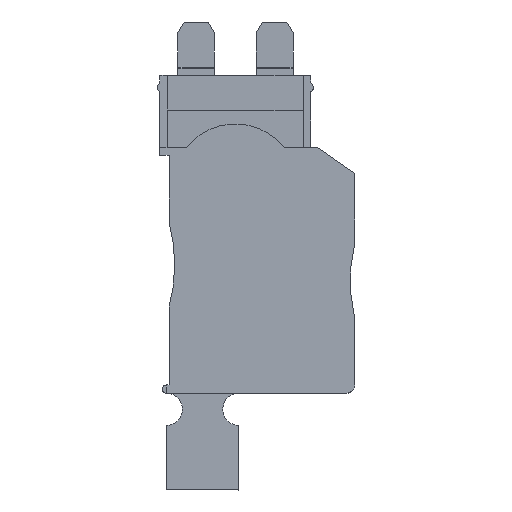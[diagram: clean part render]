
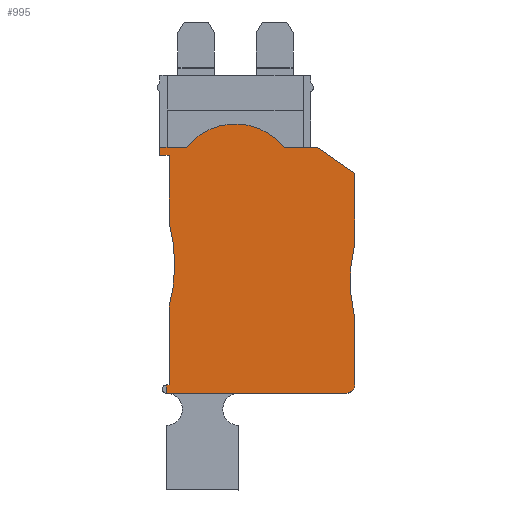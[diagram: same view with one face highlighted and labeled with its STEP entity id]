
A CAD part, top view. The second image highlights one B-rep face of the part: STEP entity #995.
In plain terms, the highlighted planar face has unit normal (0, 0, 1).
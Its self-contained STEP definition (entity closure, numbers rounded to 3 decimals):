
#633=CARTESIAN_POINT('',(5.252,15.213,3.2));
#634=VERTEX_POINT('',#633);
#641=CARTESIAN_POINT('',(7.197,15.213,3.2));
#642=VERTEX_POINT('',#641);
#643=CARTESIAN_POINT('',(7.197,15.213,3.2));
#644=DIRECTION('',(-1.,0.,0.));
#645=VECTOR('',#644,1.946);
#646=LINE('',#643,#645);
#647=EDGE_CURVE('',#642,#634,#646,.T.);
#856=CARTESIAN_POINT('',(3.486,7.74,3.2));
#857=DIRECTION('',(-0.985,0.174,0.));
#858=DIRECTION('',(0.,0.,1.));
#859=AXIS2_PLACEMENT_3D('',#856,#858,#857);
#860=PLANE('',#859);
#861=CARTESIAN_POINT('',(9.5,4.566,3.2));
#862=VERTEX_POINT('',#861);
#863=CARTESIAN_POINT('',(9.5,9.334,3.2));
#864=VERTEX_POINT('',#863);
#865=CARTESIAN_POINT('',(19.212,6.95,3.2));
#866=DIRECTION('',(-0.971,-0.238,0.));
#867=DIRECTION('',(0.,0.,-1.));
#868=AXIS2_PLACEMENT_3D('',#865,#867,#866);
#869=CIRCLE('',#868,10.);
#870=EDGE_CURVE('',#862,#864,#869,.T.);
#871=ORIENTED_EDGE('E41514',*,*,#870,.T.);
#872=CARTESIAN_POINT('',(9.5,13.6,3.2));
#873=VERTEX_POINT('',#872);
#874=CARTESIAN_POINT('',(9.5,9.334,3.2));
#875=DIRECTION('',(0.,1.,0.));
#876=VECTOR('',#875,4.266);
#877=LINE('',#874,#876);
#878=EDGE_CURVE('',#864,#873,#877,.T.);
#879=ORIENTED_EDGE('E41515',*,*,#878,.T.);
#880=CARTESIAN_POINT('',(9.5,13.6,3.2));
#881=DIRECTION('',(-0.819,0.574,0.));
#882=VECTOR('',#881,2.811);
#883=LINE('',#880,#882);
#884=EDGE_CURVE('',#873,#642,#883,.T.);
#885=ORIENTED_EDGE('E41516',*,*,#884,.T.);
#886=ORIENTED_EDGE('E41516',*,*,#647,.T.);
#887=CARTESIAN_POINT('',(5.024,15.317,3.2));
#888=VERTEX_POINT('',#887);
#889=CARTESIAN_POINT('',(5.252,15.513,3.2));
#890=DIRECTION('',(0.,-1.,0.));
#891=DIRECTION('',(0.,0.,-1.));
#892=AXIS2_PLACEMENT_3D('',#889,#891,#890);
#893=CIRCLE('',#892,0.3);
#894=EDGE_CURVE('',#634,#888,#893,.T.);
#895=ORIENTED_EDGE('E41517',*,*,#894,.T.);
#896=CARTESIAN_POINT('',(-0.91,15.213,3.2));
#897=VERTEX_POINT('',#896);
#898=CARTESIAN_POINT('',(2.1,12.813,3.2));
#899=DIRECTION('',(0.759,0.651,0.));
#900=DIRECTION('',(0.,0.,1.));
#901=AXIS2_PLACEMENT_3D('',#898,#900,#899);
#902=CIRCLE('',#901,3.85);
#903=EDGE_CURVE('',#888,#897,#902,.T.);
#904=ORIENTED_EDGE('E41518',*,*,#903,.T.);
#905=CARTESIAN_POINT('',(-2.575,15.213,3.2));
#906=VERTEX_POINT('',#905);
#907=CARTESIAN_POINT('',(-0.91,15.213,3.2));
#908=DIRECTION('',(-1.,0.,0.));
#909=VECTOR('',#908,1.665);
#910=LINE('',#907,#909);
#911=EDGE_CURVE('',#897,#906,#910,.T.);
#912=ORIENTED_EDGE('E41519',*,*,#911,.T.);
#913=CARTESIAN_POINT('',(-2.575,14.713,3.2));
#914=VERTEX_POINT('',#913);
#915=CARTESIAN_POINT('',(-2.575,15.213,3.2));
#916=DIRECTION('',(0.,-1.,0.));
#917=VECTOR('',#916,0.5);
#918=LINE('',#915,#917);
#919=EDGE_CURVE('',#906,#914,#918,.T.);
#920=ORIENTED_EDGE('E41520',*,*,#919,.T.);
#921=CARTESIAN_POINT('',(-2.,14.713,3.2));
#922=VERTEX_POINT('',#921);
#923=CARTESIAN_POINT('',(-2.575,14.713,3.2));
#924=DIRECTION('',(1.,0.,0.));
#925=VECTOR('',#924,0.575);
#926=LINE('',#923,#925);
#927=EDGE_CURVE('',#914,#922,#926,.T.);
#928=ORIENTED_EDGE('E41521',*,*,#927,.T.);
#929=CARTESIAN_POINT('',(-2.,10.571,3.2));
#930=VERTEX_POINT('',#929);
#931=CARTESIAN_POINT('',(-2.,10.571,3.2));
#932=DIRECTION('',(0.,1.,0.));
#933=VECTOR('',#932,4.141);
#934=LINE('',#931,#933);
#935=EDGE_CURVE('',#930,#922,#934,.T.);
#936=ORIENTED_EDGE('E41522',*,*,#935,.F.);
#937=CARTESIAN_POINT('',(-2.,5.326,3.2));
#938=VERTEX_POINT('',#937);
#939=CARTESIAN_POINT('',(-11.65,7.949,3.2));
#940=DIRECTION('',(0.965,-0.262,0.));
#941=DIRECTION('',(0.,0.,1.));
#942=AXIS2_PLACEMENT_3D('',#939,#941,#940);
#943=CIRCLE('',#942,10.);
#944=EDGE_CURVE('',#938,#930,#943,.T.);
#945=ORIENTED_EDGE('E41523',*,*,#944,.F.);
#946=CARTESIAN_POINT('',(-2.,0.5,3.2));
#947=VERTEX_POINT('',#946);
#948=CARTESIAN_POINT('',(-2.,5.326,3.2));
#949=DIRECTION('',(0.,-1.,0.));
#950=VECTOR('',#949,4.826);
#951=LINE('',#948,#950);
#952=EDGE_CURVE('',#938,#947,#951,.T.);
#953=ORIENTED_EDGE('E41524',*,*,#952,.T.);
#954=CARTESIAN_POINT('',(-2.175,0.5,3.2));
#955=VERTEX_POINT('',#954);
#956=CARTESIAN_POINT('',(-2.,0.5,3.2));
#957=DIRECTION('',(-1.,0.,0.));
#958=VECTOR('',#957,0.175);
#959=LINE('',#956,#958);
#960=EDGE_CURVE('',#947,#955,#959,.T.);
#961=ORIENTED_EDGE('E41525',*,*,#960,.T.);
#962=CARTESIAN_POINT('',(-2.175,0.,3.2));
#963=VERTEX_POINT('',#962);
#964=CARTESIAN_POINT('',(-2.175,0.,3.2));
#965=DIRECTION('',(0.,1.,0.));
#966=VECTOR('',#965,0.5);
#967=LINE('',#964,#966);
#968=EDGE_CURVE('',#963,#955,#967,.T.);
#969=ORIENTED_EDGE('E41526',*,*,#968,.F.);
#970=CARTESIAN_POINT('',(9.,0.,3.2));
#971=VERTEX_POINT('',#970);
#972=CARTESIAN_POINT('',(-2.175,0.,3.2));
#973=DIRECTION('',(1.,0.,0.));
#974=VECTOR('',#973,11.175);
#975=LINE('',#972,#974);
#976=EDGE_CURVE('',#963,#971,#975,.T.);
#977=ORIENTED_EDGE('E41527',*,*,#976,.T.);
#978=CARTESIAN_POINT('',(9.5,0.5,3.2));
#979=VERTEX_POINT('',#978);
#980=CARTESIAN_POINT('',(9.,0.5,3.2));
#981=DIRECTION('',(1.,0.,0.));
#982=DIRECTION('',(0.,0.,-1.));
#983=AXIS2_PLACEMENT_3D('',#980,#982,#981);
#984=CIRCLE('',#983,0.5);
#985=EDGE_CURVE('',#979,#971,#984,.T.);
#986=ORIENTED_EDGE('E41528',*,*,#985,.F.);
#987=CARTESIAN_POINT('',(9.5,0.5,3.2));
#988=DIRECTION('',(0.,1.,0.));
#989=VECTOR('',#988,4.066);
#990=LINE('',#987,#989);
#991=EDGE_CURVE('',#979,#862,#990,.T.);
#992=ORIENTED_EDGE('E41529',*,*,#991,.T.);
#993=EDGE_LOOP('',(#871,#879,#885,#886,#895,#904,#912,#920,#928,#936,#945,#953,#961,#969,#977,#986,#992));
#994=FACE_OUTER_BOUND('',#993,.T.);
#995=ADVANCED_FACE('F14180',(#994),#860,.T.);
